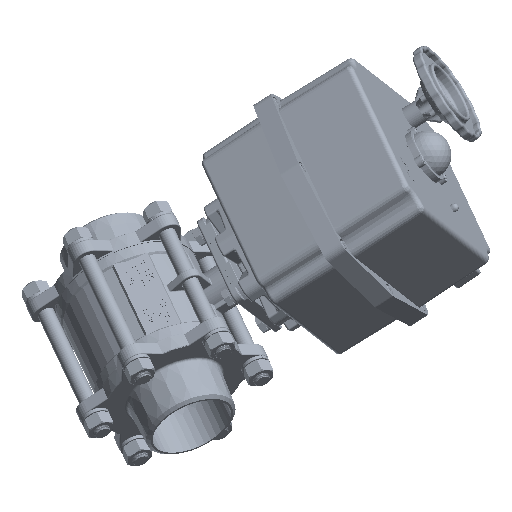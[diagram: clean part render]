
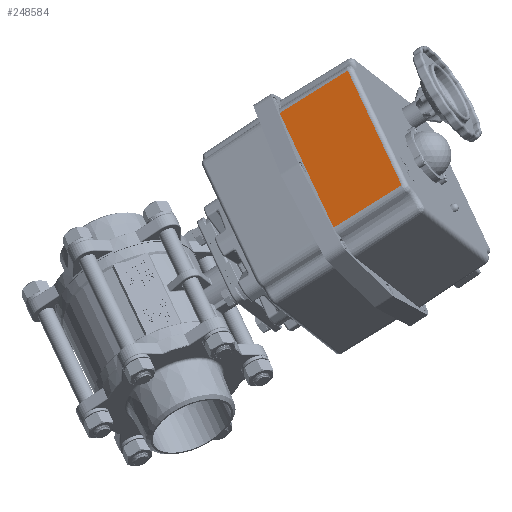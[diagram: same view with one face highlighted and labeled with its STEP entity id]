
A CAD part, left-side view. The second image highlights one B-rep face of the part: STEP entity #248584.
In plain terms, the highlighted planar face has unit normal (-0.839, 0.418, 0.348).
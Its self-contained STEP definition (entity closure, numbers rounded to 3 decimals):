
#247915=CARTESIAN_POINT('',(-14750.277,14589.034,28489.32));
#247916=VERTEX_POINT('',#247915);
#247924=CARTESIAN_POINT('',(-14681.513,14638.932,28595.286));
#247925=VERTEX_POINT('',#247924);
#247926=CARTESIAN_POINT('',(-14750.277,14589.034,28489.32));
#247927=DIRECTION('',(0.506,0.367,0.78));
#247928=VECTOR('',#247927,135.82);
#247929=LINE('',#247926,#247928);
#247930=EDGE_CURVE('',#247916,#247925,#247929,.T.);
#248541=CARTESIAN_POINT('',(-14696.53,14576.039,28634.646));
#248542=VERTEX_POINT('',#248541);
#248552=CARTESIAN_POINT('',(-14681.513,14638.932,28595.286));
#248553=DIRECTION('',(-0.198,-0.831,0.52));
#248554=VECTOR('',#248553,75.699);
#248555=LINE('',#248552,#248554);
#248556=EDGE_CURVE('',#247925,#248542,#248555,.T.);
#248561=CARTESIAN_POINT('',(-14748.293,14597.344,28484.119));
#248562=DIRECTION('',(-0.839,0.418,0.348));
#248563=DIRECTION('',(0.383,0.0,0.924));
#248564=AXIS2_PLACEMENT_3D('',#248561,#248562,#248563);
#248565=PLANE('',#248564);
#248566=CARTESIAN_POINT('',(-14765.294,14526.141,28528.68));
#248567=VERTEX_POINT('',#248566);
#248568=CARTESIAN_POINT('',(-14696.53,14576.039,28634.646));
#248569=DIRECTION('',(-0.506,-0.367,-0.78));
#248570=VECTOR('',#248569,135.82);
#248571=LINE('',#248568,#248570);
#248572=EDGE_CURVE('',#248542,#248567,#248571,.T.);
#248573=ORIENTED_EDGE('',*,*,#248572,.F.);
#248574=ORIENTED_EDGE('',*,*,#248556,.F.);
#248575=ORIENTED_EDGE('',*,*,#247930,.F.);
#248576=CARTESIAN_POINT('',(-14750.277,14589.034,28489.32));
#248577=DIRECTION('',(-0.198,-0.831,0.52));
#248578=VECTOR('',#248577,75.699);
#248579=LINE('',#248576,#248578);
#248580=EDGE_CURVE('',#247916,#248567,#248579,.T.);
#248581=ORIENTED_EDGE('',*,*,#248580,.T.);
#248582=EDGE_LOOP('',(#248573,#248574,#248575,#248581));
#248583=FACE_OUTER_BOUND('',#248582,.T.);
#248584=ADVANCED_FACE('',(#248583),#248565,.T.);
